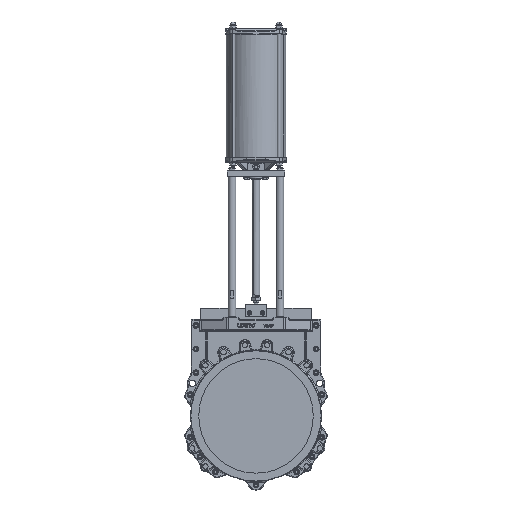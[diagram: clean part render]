
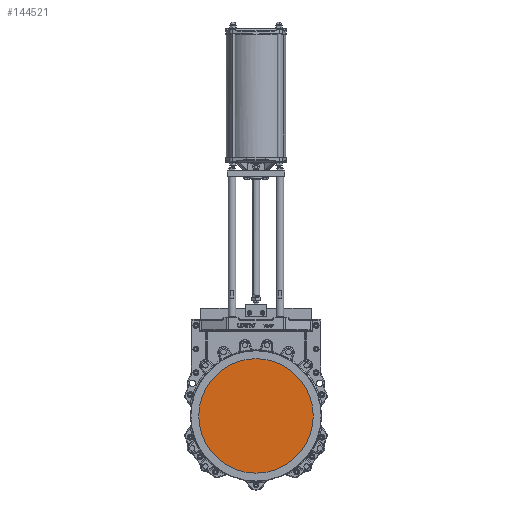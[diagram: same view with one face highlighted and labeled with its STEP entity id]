
A CAD part, top view. The second image highlights one B-rep face of the part: STEP entity #144521.
In plain terms, the highlighted planar face has unit normal (0, 0, 1).
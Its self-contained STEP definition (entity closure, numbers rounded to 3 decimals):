
#12595 = DIRECTION ( 'NONE',  ( 0., 0., -1. ) ) ;
#13402 = FACE_OUTER_BOUND ( 'NONE', #78140, .T. ) ;
#16987 = CIRCLE ( 'NONE', #107750, 300. ) ;
#22398 = CIRCLE ( 'NONE', #97719, 300. ) ;
#30218 = ORIENTED_EDGE ( 'NONE', *, *, #203318, .F. ) ;
#34995 = CARTESIAN_POINT ( 'NONE',  ( 0.839, -823.489, 0. ) ) ;
#45378 = VERTEX_POINT ( 'NONE', #203884 ) ;
#52007 = DIRECTION ( 'NONE',  ( -1., 0., 0. ) ) ;
#68336 = PLANE ( 'NONE',  #166155 ) ;
#78140 = EDGE_LOOP ( 'NONE', ( #30218, #186141 ) ) ;
#84642 = CARTESIAN_POINT ( 'NONE',  ( 300., 0., 0. ) ) ;
#97719 = AXIS2_PLACEMENT_3D ( 'NONE', #114294, #12595, #131340 ) ;
#100727 = DIRECTION ( 'NONE',  ( 0., 0., -1. ) ) ;
#107750 = AXIS2_PLACEMENT_3D ( 'NONE', #202122, #100727, #219204 ) ;
#109422 = EDGE_CURVE ( 'NONE', #45378, #134564, #16987, .T. ) ;
#114294 = CARTESIAN_POINT ( 'NONE',  ( 0., 0., 0. ) ) ;
#131340 = DIRECTION ( 'NONE',  ( -1., 0., 0. ) ) ;
#134564 = VERTEX_POINT ( 'NONE', #84642 ) ;
#144521 = ADVANCED_FACE ( 'NONE', ( #13402 ), #68336, .F. ) ;
#153638 = DIRECTION ( 'NONE',  ( 0., 0., -1. ) ) ;
#166155 = AXIS2_PLACEMENT_3D ( 'NONE', #34995, #153638, #52007 ) ;
#186141 = ORIENTED_EDGE ( 'NONE', *, *, #109422, .F. ) ;
#202122 = CARTESIAN_POINT ( 'NONE',  ( 0., 0., 0. ) ) ;
#203318 = EDGE_CURVE ( 'NONE', #134564, #45378, #22398, .T. ) ;
#203884 = CARTESIAN_POINT ( 'NONE',  ( -300., 0., 0. ) ) ;
#219204 = DIRECTION ( 'NONE',  ( -1., 0., 0. ) ) ;
